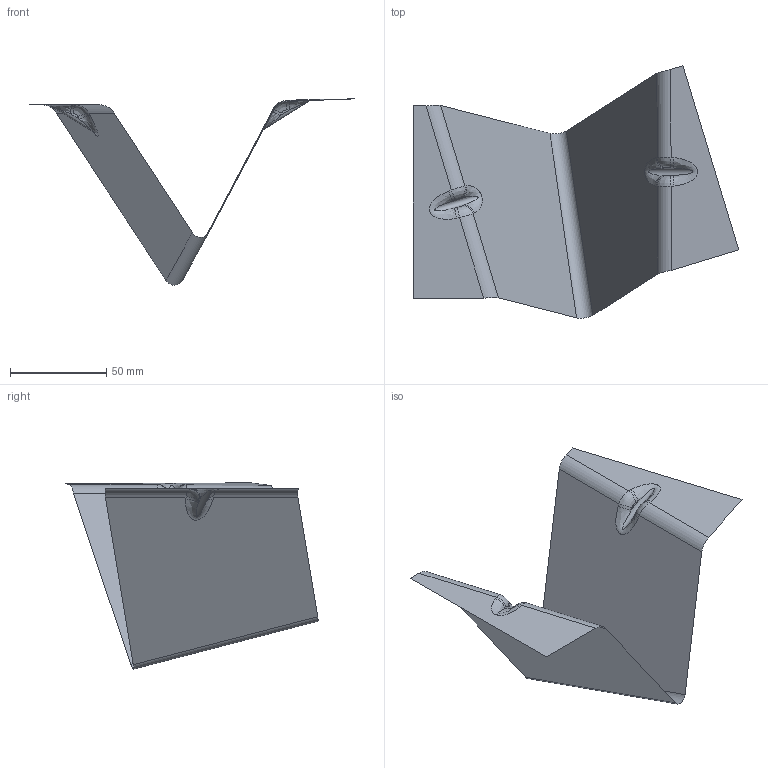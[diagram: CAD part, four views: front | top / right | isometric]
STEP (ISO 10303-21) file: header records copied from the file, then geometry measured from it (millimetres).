
FILE_DESCRIPTION(('CATIA V5 STEP Exchange'),'2;1');
FILE_NAME('C:\_Andres\UNIVERSIDAD\IQS\ASIGNATURAS\DAO\EXF\EXF-16172c\2inicio\Quiroga_Garcia_Ej03_v25.stp','2017-03-05T19:32:26+00:00',('none'),('none'),'CATIA Version 5-6 Release 2014 SP1 HF18','CATIA V5 STEP AP203','none');
FILE_SCHEMA(('CONFIG_CONTROL_DESIGN'));
Length unit declared in the file: millimetre
Products named in the file (1): Quiroga_Garcia_Ej03_v25
Bounding box: 169.1 x 131.05 x 96.81 mm (x, y, z)
Surface area: 25380.8 mm2 (no closed solid volume)
Topology: 0 solids, 1 shells, 31 faces, 78 edges, 48 vertices
Faces by surface type: cylinder 15, plane 8, bspline 8
Entity records: 2443 total; most frequent: CARTESIAN_POINT 1770, ORIENTED_EDGE 140, DIRECTION 90, EDGE_CURVE 78, VERTEX_POINT 48, VECTOR 40, LINE 40, ADVANCED_FACE 31
